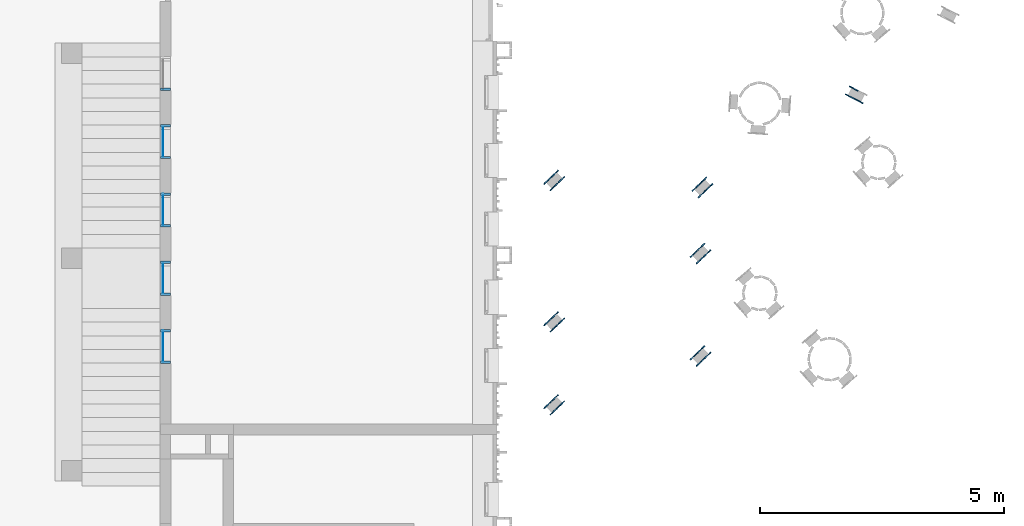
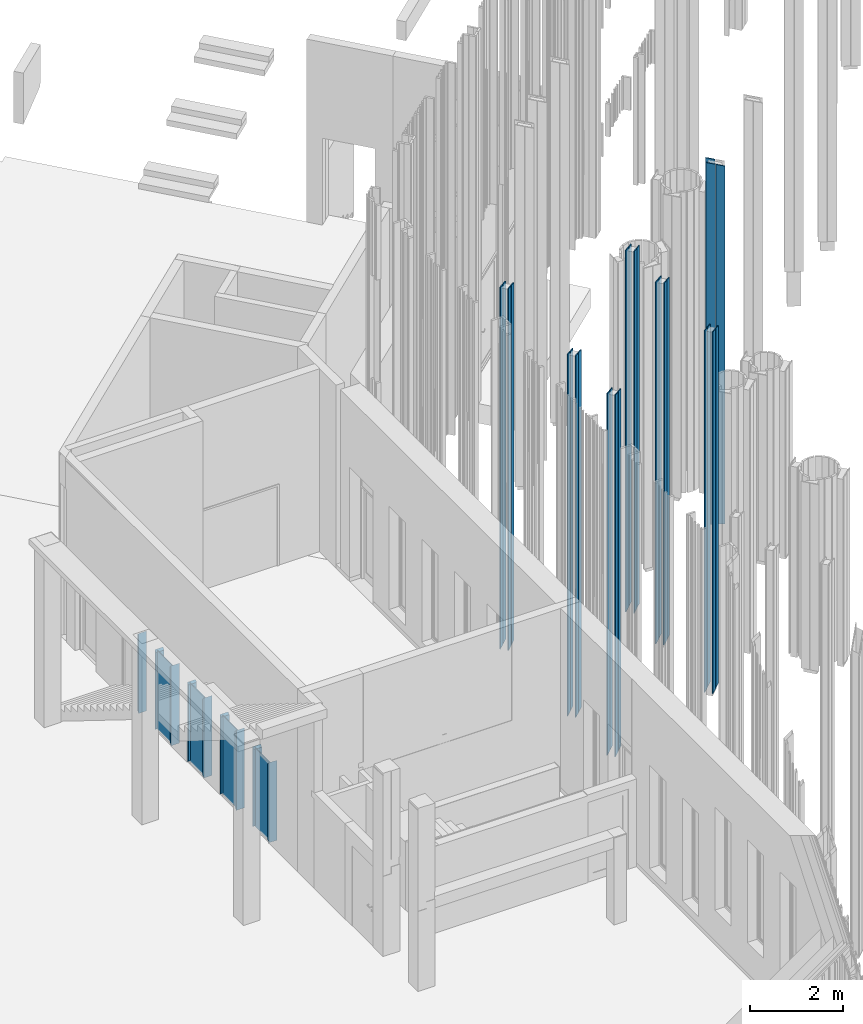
# One storey, part 39 of 390: 40 discrete accessories, 5 elements without a shape of their own.
"""IFC2X3 building model written with IfcOpenShell, lengths in millimetres."""

from ifc_helpers import new_model, entity, si_unit, converted_unit, derived_unit, money_unit, direction, frame, origin_with_axes, place, context, subcontext, project, spatial, polyline, outline, extrude, clip, halfspace, faceted_brep, source, transform, mapped, material, material_list, type_object, element, aggregate, save


model = new_model("IFC2X3")

# Units and contexts
model_context = context("Model", 3, precision=1e-05, world=origin_with_axes(), true_north=direction((0.0, 1.0)))
body_context = subcontext(model_context, "Body", "Model", "MODEL_VIEW")
ifc_project = project(units=[si_unit("LENGTHUNIT", "METRE", prefix="MILLI"), si_unit("AREAUNIT", "SQUARE_METRE"), si_unit("VOLUMEUNIT", "CUBIC_METRE"), converted_unit("PLANEANGLEUNIT", "DEGREE", entity("IfcPlaneAngleMeasure", 0.0174532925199), si_unit("PLANEANGLEUNIT", "RADIAN"), dimensions=[0, 0, 0, 0, 0, 0, 0]), si_unit("SOLIDANGLEUNIT", "STERADIAN"), money_unit("EUR"), converted_unit("TIMEUNIT", "Year", entity("IfcTimeMeasure", 31556926.0), si_unit("TIMEUNIT", "SECOND"), dimensions=[0, 0, 1, 0, 0, 0, 0]), si_unit("MASSUNIT", "GRAM", prefix="KILO"), si_unit("THERMODYNAMICTEMPERATUREUNIT", "DEGREE_CELSIUS"), si_unit("LUMINOUSINTENSITYUNIT", "LUMEN"), si_unit("ENERGYUNIT", "JOULE", prefix="MEGA"), derived_unit("THERMALCONDUCTANCEUNIT", [(si_unit("POWERUNIT", "WATT"), 1), (si_unit("LENGTHUNIT", "METRE"), -1), (si_unit("THERMODYNAMICTEMPERATUREUNIT", "KELVIN"), -1)]), derived_unit("SPECIFICHEATCAPACITYUNIT", [(si_unit("ENERGYUNIT", "JOULE"), 1), (si_unit("MASSUNIT", "GRAM", prefix="KILO"), -1), (si_unit("THERMODYNAMICTEMPERATUREUNIT", "KELVIN"), -1)]), derived_unit("MASSDENSITYUNIT", [(si_unit("MASSUNIT", "GRAM", prefix="KILO"), 1), (si_unit("VOLUMEUNIT", "CUBIC_METRE"), -1)])], contexts=[model_context])

# Site, building, storey
site_placement = place(None, origin_with_axes())
site = spatial("IfcSite", under=ifc_project, at=site_placement, Name="Site", CompositionType="ELEMENT")
building_placement = place(site_placement, origin_with_axes())
building = spatial("IfcBuilding", under=site, at=building_placement, Name="Building", CompositionType="ELEMENT")
storey_placement = place(building_placement, origin_with_axes())
storey = spatial("IfcBuildingStorey", under=building, at=storey_placement, Name="1 korrus", CompositionType="ELEMENT", Elevation=0.0)

# Discrete accessories
ifc_material_1 = material(Name="GENEERILINE - VÄLINE VOODER")
discrete_accessory_type_1 = type_object("IfcDiscreteAccessoryType", Name="GENEERILINE - VÄLINE VOODER")
shared_shape_1 = source(origin_with_axes(), body_context, "Body", "Brep", [
    faceted_brep([(162190.360855, 119453.798876, 100.0), (162190.360855, 119453.798876, 9600.0), (162168.524839, 119456.480002, 9600.0), (162168.524839, 119456.480002, 100.0), (162214.734723, 119652.308107, 100.0), (162214.734723, 119652.308107, 9546.41016151), (162192.898708, 119654.989232, 9546.41016151), (162192.898708, 119654.989232, 100.0)], [[[0, 1, 2, 3]], [[1, 0, 4, 5]], [[2, 1, 5, 6]], [[3, 2, 6, 7]], [[0, 3, 7, 4]], [[7, 6, 5, 4]]]),
])
for number, where, z_axis, x_axis in (
    (1, (-60428.8672127, 71999.3768693, 0.0), (0.0, 0.0, 1.0), (0.774944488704, -0.632029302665, 0.0)),
    (2, (-57390.1597736, 71854.8490542, 0.0), (0.0, 0.0, 1.0), (0.774944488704, -0.632029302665, 0.0)),
    (3, (-57428.8672127, 70499.3768693, 0.0), (0.0, 0.0, 1.0), (0.774944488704, -0.632029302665, 0.0)),
    (4, (-60428.8672127, 69099.3768693, 0.0), (0.0, 0.0, 1.0), (0.774944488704, -0.632029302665, 0.0)),
    (5, (-57428.8672127, 68399.3768693, 0.0), (0.0, 0.0, 1.0), (0.774944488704, -0.632029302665, 0.0)),
    (6, (-60428.8672127, 67399.3768693, 0.0), (0.0, 0.0, 1.0), (0.774944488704, -0.632029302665, 0.0)),
    (7, (90231.2612486, 257328.606473, 0.0), (0.0, 0.0, 1.0), (-0.342020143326, -0.939692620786, 0.0)),
):
    element("IfcDiscreteAccessory", number, at=place(storey_placement, frame(where, z_axis=z_axis, x_axis=x_axis)), inside=storey, type_object=discrete_accessory_type_1, material=ifc_material_1, Name="Päikesevarjestuspost", context=body_context, shape_type="MappedRepresentation", body=[
        mapped(shared_shape_1, transform((0.0, 0.0, 0.0))),
    ])
shared_shape_2 = source(origin_with_axes(), body_context, "Body", "Brep", [
    faceted_brep([(162194.117401, 119664.914694, 100.0), (162215.953417, 119662.233568, 100.0), (162215.953417, 119662.233568, 9543.73066959), (162194.117401, 119664.914694, 9543.73066959), (162218.49127, 119863.423924, 100.0), (162240.327285, 119860.742798, 100.0), (162240.327285, 119860.742798, 9490.1408311), (162218.49127, 119863.423924, 9490.1408311)], [[[0, 1, 2, 3]], [[1, 0, 4, 5]], [[2, 1, 5, 6]], [[3, 2, 6, 7]], [[0, 3, 7, 4]], [[4, 7, 6, 5]]]),
])
for number, where, z_axis, x_axis in (
    (8, (-60428.8672127, 71999.3768693, 0.0), (0.0, 0.0, 1.0), (0.774944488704, -0.632029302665, 0.0)),
    (9, (-57390.1597736, 71854.8490542, 0.0), (0.0, 0.0, 1.0), (0.774944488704, -0.632029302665, 0.0)),
    (10, (-57428.8672127, 70499.3768693, 0.0), (0.0, 0.0, 1.0), (0.774944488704, -0.632029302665, 0.0)),
    (11, (-60428.8672127, 69099.3768693, 0.0), (0.0, 0.0, 1.0), (0.774944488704, -0.632029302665, 0.0)),
    (12, (-57428.8672127, 68399.3768693, 0.0), (0.0, 0.0, 1.0), (0.774944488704, -0.632029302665, 0.0)),
    (13, (-60428.8672127, 67399.3768693, 0.0), (0.0, 0.0, 1.0), (0.774944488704, -0.632029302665, 0.0)),
):
    element("IfcDiscreteAccessory", number, at=place(storey_placement, frame(where, z_axis=z_axis, x_axis=x_axis)), inside=storey, type_object=discrete_accessory_type_1, material=ifc_material_1, Name="Päikesevarjestuspost", context=body_context, shape_type="MappedRepresentation", body=[
        mapped(shared_shape_2, transform((0.0, 0.0, 0.0))),
    ])
shared_shape_3 = source(origin_with_axes(), body_context, "Body", "Brep", [
    faceted_brep([(-162194.117401, 119664.914694, 100.0), (-162194.117401, 119664.914694, 9543.73066959), (-162215.953417, 119662.233568, 9543.73066959), (-162215.953417, 119662.233568, 100.0), (-162218.49127, 119863.423924, 100.0), (-162218.49127, 119863.423924, 9490.1408311), (-162240.327285, 119860.742798, 9490.1408311), (-162240.327285, 119860.742798, 100.0)], [[[0, 1, 2, 3]], [[0, 4, 5, 1]], [[1, 5, 6, 2]], [[2, 6, 7, 3]], [[3, 7, 4, 0]], [[4, 7, 6, 5]]]),
])
for number, where, z_axis, x_axis in (
    (14, (142374.152663, -139481.656804, 0.0), (0.0, 0.0, 1.0), (0.599023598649, -0.800731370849, 0.0)),
    (15, (145412.860102, -139626.184619, 0.0), (0.0, 0.0, 1.0), (0.599023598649, -0.800731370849, 0.0)),
    (16, (145374.152663, -140981.656804, 0.0), (0.0, 0.0, 1.0), (0.599023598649, -0.800731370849, 0.0)),
    (17, (145374.152663, -143081.656804, 0.0), (0.0, 0.0, 1.0), (0.599023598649, -0.800731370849, 0.0)),
    (18, (142374.152663, -142381.656804, 0.0), (0.0, 0.0, 1.0), (0.599023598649, -0.800731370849, 0.0)),
    (19, (142374.152663, -144081.656804, 0.0), (0.0, 0.0, 1.0), (0.599023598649, -0.800731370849, 0.0)),
    (20, (-42791.2806109, -3742.83170368, 0.0), (0.0, 0.0, 1.0), (-0.559192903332, -0.829037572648, 0.0)),
):
    element("IfcDiscreteAccessory", number, at=place(storey_placement, frame(where, z_axis=z_axis, x_axis=x_axis)), inside=storey, type_object=discrete_accessory_type_1, material=ifc_material_1, Name="Päikesevarjestuspost", context=body_context, shape_type="MappedRepresentation", body=[
        mapped(shared_shape_3, transform((0.0, 0.0, 0.0))),
    ])
shared_shape_4 = source(origin_with_axes(), body_context, "Body", "Brep", [
    faceted_brep([(-162190.360855, 119453.798876, 100.0), (-162168.524839, 119456.480002, 100.0), (-162168.524839, 119456.480002, 9600.0), (-162190.360855, 119453.798876, 9600.0), (-162214.734723, 119652.308107, 100.0), (-162192.898708, 119654.989232, 100.0), (-162192.898708, 119654.989232, 9546.41016151), (-162214.734723, 119652.308107, 9546.41016151)], [[[0, 1, 2, 3]], [[0, 4, 5, 1]], [[1, 5, 6, 2]], [[2, 6, 7, 3]], [[3, 7, 4, 0]], [[5, 4, 7, 6]]]),
])
for number, where, z_axis, x_axis in (
    (21, (142374.152663, -139481.656804, 0.0), (0.0, 0.0, 1.0), (0.599023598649, -0.800731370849, 0.0)),
    (22, (145412.860102, -139626.184619, 0.0), (0.0, 0.0, 1.0), (0.599023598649, -0.800731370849, 0.0)),
    (23, (145374.152663, -140981.656804, 0.0), (0.0, 0.0, 1.0), (0.599023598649, -0.800731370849, 0.0)),
    (24, (145374.152663, -143081.656804, 0.0), (0.0, 0.0, 1.0), (0.599023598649, -0.800731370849, 0.0)),
    (25, (142374.152663, -142381.656804, 0.0), (0.0, 0.0, 1.0), (0.599023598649, -0.800731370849, 0.0)),
    (26, (142374.152663, -144081.656804, 0.0), (0.0, 0.0, 1.0), (0.599023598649, -0.800731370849, 0.0)),
    (27, (-42791.2806109, -3742.83170368, 0.0), (0.0, 0.0, 1.0), (-0.559192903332, -0.829037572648, 0.0)),
):
    element("IfcDiscreteAccessory", number, at=place(storey_placement, frame(where, z_axis=z_axis, x_axis=x_axis)), inside=storey, type_object=discrete_accessory_type_1, material=ifc_material_1, Name="Päikesevarjestuspost", context=body_context, shape_type="MappedRepresentation", body=[
        mapped(shared_shape_4, transform((0.0, 0.0, 0.0))),
    ])

# Curtain wall, discrete accessories
curtain_wall_type = type_object("IfcCurtainWallType", Name="KS-17", PredefinedType="NOTDEFINED")
curtain_wall_1_placement = place(storey_placement, frame((132939.999926, 58740.0585192, 0.0), z_axis=(0.0, 0.0, 1.0), x_axis=(1.0, 0.0, 0.0)))
curtain_wall_1 = element("IfcCurtainWall", 28, at=curtain_wall_1_placement, inside=storey, type_object=curtain_wall_type, Name="Klaas-sein")
ifc_material_2 = material(Name="Klaas")
discrete_accessory_type_2 = type_object("IfcDiscreteAccessoryType", Name="Distinct Panel 660 x 2060 x 20")
discrete_accessory_1_placement = place(curtain_wall_1_placement, frame((0.0, 0.0, 1050.0), z_axis=(0.0, 0.0, 1.0), x_axis=(0.0, 1.0, 0.0)))
discrete_accessory_1 = element("IfcDiscreteAccessory", 29, at=discrete_accessory_1_placement, type_object=discrete_accessory_type_2, material=ifc_material_2, Name="KS-17 klaaspakett", context=body_context, shape_type="SweptSolid", body=[
    extrude(outline(polyline([(-329.999980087, -1030.00001341), (330.000015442, -1030.00001341), (330.000015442, 1030.00001341), (-330.00001138, 1030.00001341), (-329.999980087, -1030.00001341)])), frame((0.0, -10.0, 0.0), z_axis=(0.0, 1.0, 0.0), x_axis=(1.0, 0.0, 0.0)), (0.0, 0.0, 1.0), 20.0),
])
ifc_material_3 = material(Name="Aluminium MUST")
ifc_material_list = material_list([ifc_material_3, ifc_material_3, ifc_material_3])
discrete_accessory_type_3 = type_object("IfcDiscreteAccessoryType", Name="50 x 200")
discrete_accessory_2_placement = place(curtain_wall_1_placement, frame((1.81898940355e-09, -350.000015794, 0.0), z_axis=(0.0, 1.31075138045e-08, 1.0), x_axis=(0.0, 1.0, -1.31075138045e-08)))
discrete_accessory_2 = element("IfcDiscreteAccessory", 30, at=discrete_accessory_2_placement, type_object=discrete_accessory_type_3, material=ifc_material_list, Name="KS-17 profiil", context=body_context, shape_type="Clipping", body=[
    clip(clip(extrude(outline(polyline([(9.99999999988, 25.0000000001), (-10.0000000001, 24.9999999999), (-9.99999999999, 0.0), (9.99999999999, 0.0), (9.99999999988, 25.0000000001)])), frame((0.0, 0.0, 0.0), z_axis=(0.0, 0.0, 1.0), x_axis=(0.0, -1.0, 0.0)), (0.0, 0.0, 1.0), 2100.0), halfspace(frame((1050.0, 0.0, 1050.00001376), z_axis=(-0.707106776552, 0.0, -0.707106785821), x_axis=(0.0, 1.0, 0.0)), True)), halfspace(frame((0.0, 0.0, 0.0), z_axis=(-0.707106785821, 0.0, 0.707106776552), x_axis=(0.0, -1.0, 0.0)), True)),
    clip(clip(extrude(outline(polyline([(150.0, 50.0000000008), (9.99999999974, 50.0000000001), (9.99999999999, 0.0), (150.0, 7.81597009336e-10), (150.0, 50.0000000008)])), frame((0.0, 0.0, 0.0), z_axis=(0.0, 0.0, 1.0), x_axis=(0.0, -1.0, 0.0)), (0.0, 0.0, 1.0), 2100.0), halfspace(frame((1050.0, 0.0, 1050.00001376), z_axis=(-0.707106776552, 0.0, -0.707106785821), x_axis=(0.0, 1.0, 0.0)), True)), halfspace(frame((0.0, 0.0, 0.0), z_axis=(-0.707106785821, 0.0, 0.707106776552), x_axis=(0.0, -1.0, 0.0)), True)),
    clip(clip(extrude(outline(polyline([(-50.0, -2.62900812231e-10), (-9.99999999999, 0.0), (-10.0000000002, 49.9999999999), (-50.0000000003, 49.9999999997), (-50.0, -2.62900812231e-10)])), frame((0.0, 0.0, 0.0), z_axis=(0.0, 0.0, 1.0), x_axis=(0.0, -1.0, 0.0)), (0.0, 0.0, 1.0), 2100.0), halfspace(frame((1050.0, 0.0, 1050.00001376), z_axis=(-0.707106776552, 0.0, -0.707106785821), x_axis=(0.0, 1.0, 0.0)), True)), halfspace(frame((0.0, 0.0, 0.0), z_axis=(-0.707106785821, 0.0, 0.707106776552), x_axis=(0.0, -1.0, 0.0)), True)),
])
discrete_accessory_3_placement = place(curtain_wall_1_placement, frame((-1.81898940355e-09, 350.000002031, 0.0), z_axis=(0.0, 0.0, 1.0), x_axis=(0.0, 1.0, 0.0)))
discrete_accessory_3 = element("IfcDiscreteAccessory", 31, at=discrete_accessory_3_placement, type_object=discrete_accessory_type_3, material=ifc_material_list, Name="KS-17 profiil", context=body_context, shape_type="Clipping", body=[
    clip(clip(extrude(outline(polyline([(10.0000000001, -24.9999999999), (9.99999999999, 0.0), (-9.99999999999, 0.0), (-9.99999999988, -25.0000000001), (10.0000000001, -24.9999999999)])), frame((0.0, 0.0, 0.0), z_axis=(0.0, 0.0, 1.0), x_axis=(0.0, -1.0, 0.0)), (0.0, 0.0, 1.0), 2100.0), halfspace(frame((0.0, 0.0, 0.0), z_axis=(0.707106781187, 0.0, 0.707106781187), x_axis=(0.0, -1.0, 0.0)), True)), halfspace(frame((-1050.0, 0.0, 1050.0), z_axis=(0.707106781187, 0.0, -0.707106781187), x_axis=(0.0, 1.0, 0.0)), True)),
    clip(clip(extrude(outline(polyline([(150.0, -49.9999999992), (150.0, 7.81597009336e-10), (9.99999999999, 0.0), (10.0000000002, -49.9999999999), (150.0, -49.9999999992)])), frame((0.0, 0.0, 0.0), z_axis=(0.0, 0.0, 1.0), x_axis=(0.0, -1.0, 0.0)), (0.0, 0.0, 1.0), 2100.0), halfspace(frame((0.0, 0.0, 0.0), z_axis=(0.707106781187, 0.0, 0.707106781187), x_axis=(0.0, -1.0, 0.0)), True)), halfspace(frame((-1050.0, 0.0, 1050.0), z_axis=(0.707106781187, 0.0, -0.707106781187), x_axis=(0.0, 1.0, 0.0)), True)),
    clip(clip(extrude(outline(polyline([(-50.0, -2.62900812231e-10), (-49.9999999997, -50.0000000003), (-9.99999999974, -50.0000000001), (-9.99999999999, 0.0), (-50.0, -2.62900812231e-10)])), frame((0.0, 0.0, 0.0), z_axis=(0.0, 0.0, 1.0), x_axis=(0.0, -1.0, 0.0)), (0.0, 0.0, 1.0), 2100.0), halfspace(frame((0.0, 0.0, 0.0), z_axis=(0.707106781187, 0.0, 0.707106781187), x_axis=(0.0, -1.0, 0.0)), True)), halfspace(frame((-1050.0, 0.0, 1050.0), z_axis=(0.707106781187, 0.0, -0.707106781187), x_axis=(0.0, 1.0, 0.0)), True)),
])
aggregate(curtain_wall_1, [discrete_accessory_1, discrete_accessory_2, discrete_accessory_3])

curtain_wall_2_placement = place(storey_placement, frame((132939.999926, 63023.3918775, 0.0), z_axis=(0.0, 0.0, 1.0), x_axis=(1.0, 0.0, 0.0)))
curtain_wall_2 = element("IfcCurtainWall", 32, at=curtain_wall_2_placement, inside=storey, type_object=curtain_wall_type, Name="Klaas-sein")
discrete_accessory_4_placement = place(curtain_wall_2_placement, frame((-1.39266376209e-09, 266.666688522, 2100.0), z_axis=(0.0, -9.93411828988e-09, -1.0), x_axis=(0.0, -1.0, 9.93411828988e-09)))
discrete_accessory_4 = element("IfcDiscreteAccessory", 33, at=discrete_accessory_4_placement, type_object=discrete_accessory_type_3, material=ifc_material_list, Name="KS-17 profiil", context=body_context, shape_type="Clipping", body=[
    clip(clip(extrude(outline(polyline([(10.0000000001, 24.9999999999), (-9.99999999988, 25.0000000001), (-9.99999999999, 0.0), (9.99999999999, 0.0), (10.0000000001, 24.9999999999)])), frame((0.0, 0.0, 0.0), z_axis=(0.0, 0.0, 1.0), x_axis=(0.0, -1.0, 0.0)), (0.0, 0.0, 1.0), 2100.0), halfspace(frame((1050.0, 0.0, 1050.00001043), z_axis=(-0.707106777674, 0.0, -0.707106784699), x_axis=(0.0, 1.0, 0.0)), True)), halfspace(frame((0.0, 0.0, 0.0), z_axis=(-0.707106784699, 0.0, 0.707106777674), x_axis=(0.0, -1.0, 0.0)), True)),
    clip(clip(extrude(outline(polyline([(150.0, 49.9999999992), (10.0000000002, 49.9999999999), (9.99999999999, 0.0), (150.0, -7.81597009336e-10), (150.0, 49.9999999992)])), frame((0.0, 0.0, 0.0), z_axis=(0.0, 0.0, 1.0), x_axis=(0.0, -1.0, 0.0)), (0.0, 0.0, 1.0), 2100.0), halfspace(frame((1050.0, 0.0, 1050.00001043), z_axis=(-0.707106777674, 0.0, -0.707106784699), x_axis=(0.0, 1.0, 0.0)), True)), halfspace(frame((0.0, 0.0, 0.0), z_axis=(-0.707106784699, 0.0, 0.707106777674), x_axis=(0.0, -1.0, 0.0)), True)),
    clip(clip(extrude(outline(polyline([(-50.0, 2.62900812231e-10), (-9.99999999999, 0.0), (-9.99999999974, 50.0000000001), (-49.9999999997, 50.0000000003), (-50.0, 2.62900812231e-10)])), frame((0.0, 0.0, 0.0), z_axis=(0.0, 0.0, 1.0), x_axis=(0.0, -1.0, 0.0)), (0.0, 0.0, 1.0), 2100.0), halfspace(frame((1050.0, 0.0, 1050.00001043), z_axis=(-0.707106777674, 0.0, -0.707106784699), x_axis=(0.0, 1.0, 0.0)), True)), halfspace(frame((0.0, 0.0, 0.0), z_axis=(-0.707106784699, 0.0, 0.707106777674), x_axis=(0.0, -1.0, 0.0)), True)),
])
discrete_accessory_5_placement = place(curtain_wall_2_placement, frame((2.245315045e-09, -433.33333234, 0.0), z_axis=(0.0, 9.93411828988e-09, 1.0), x_axis=(0.0, 1.0, -9.93411828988e-09)))
discrete_accessory_5 = element("IfcDiscreteAccessory", 34, at=discrete_accessory_5_placement, type_object=discrete_accessory_type_3, material=ifc_material_list, Name="KS-17 profiil", context=body_context, shape_type="Clipping", body=[
    clip(clip(extrude(outline(polyline([(9.99999999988, 25.0000000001), (-10.0000000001, 24.9999999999), (-9.99999999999, 0.0), (9.99999999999, 0.0), (9.99999999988, 25.0000000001)])), frame((0.0, 0.0, 0.0), z_axis=(0.0, 0.0, 1.0), x_axis=(0.0, -1.0, 0.0)), (0.0, 0.0, 1.0), 2100.0), halfspace(frame((1050.0, 0.0, 1050.00001043), z_axis=(-0.707106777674, 0.0, -0.707106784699), x_axis=(0.0, 1.0, 0.0)), True)), halfspace(frame((0.0, 0.0, 0.0), z_axis=(-0.707106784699, 0.0, 0.707106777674), x_axis=(0.0, -1.0, 0.0)), True)),
    clip(clip(extrude(outline(polyline([(150.0, 50.0000000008), (9.99999999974, 50.0000000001), (9.99999999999, 0.0), (150.0, 7.81597009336e-10), (150.0, 50.0000000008)])), frame((0.0, 0.0, 0.0), z_axis=(0.0, 0.0, 1.0), x_axis=(0.0, -1.0, 0.0)), (0.0, 0.0, 1.0), 2100.0), halfspace(frame((1050.0, 0.0, 1050.00001043), z_axis=(-0.707106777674, 0.0, -0.707106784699), x_axis=(0.0, 1.0, 0.0)), True)), halfspace(frame((0.0, 0.0, 0.0), z_axis=(-0.707106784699, 0.0, 0.707106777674), x_axis=(0.0, -1.0, 0.0)), True)),
    clip(clip(extrude(outline(polyline([(-50.0, -2.62900812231e-10), (-9.99999999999, 0.0), (-10.0000000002, 49.9999999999), (-50.0000000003, 49.9999999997), (-50.0, -2.62900812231e-10)])), frame((0.0, 0.0, 0.0), z_axis=(0.0, 0.0, 1.0), x_axis=(0.0, -1.0, 0.0)), (0.0, 0.0, 1.0), 2100.0), halfspace(frame((1050.0, 0.0, 1050.00001043), z_axis=(-0.707106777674, 0.0, -0.707106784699), x_axis=(0.0, 1.0, 0.0)), True)), halfspace(frame((0.0, 0.0, 0.0), z_axis=(-0.707106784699, 0.0, 0.707106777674), x_axis=(0.0, -1.0, 0.0)), True)),
])

curtain_wall_3_placement = place(storey_placement, frame((132939.999926, 61623.3918775, 0.0), z_axis=(0.0, 0.0, 1.0), x_axis=(1.0, 0.0, 0.0)))
curtain_wall_3 = element("IfcCurtainWall", 35, at=curtain_wall_3_placement, inside=storey, type_object=curtain_wall_type, Name="Klaas-sein")
discrete_accessory_6_placement = place(curtain_wall_3_placement, frame((-1.39266376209e-09, 266.666688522, 2100.0), z_axis=(0.0, -9.93411828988e-09, -1.0), x_axis=(0.0, -1.0, 9.93411828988e-09)))
discrete_accessory_6 = element("IfcDiscreteAccessory", 36, at=discrete_accessory_6_placement, type_object=discrete_accessory_type_3, material=ifc_material_list, Name="KS-17 profiil", context=body_context, shape_type="Clipping", body=[
    clip(clip(extrude(outline(polyline([(10.0000000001, 24.9999999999), (-9.99999999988, 25.0000000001), (-9.99999999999, 0.0), (9.99999999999, 0.0), (10.0000000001, 24.9999999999)])), frame((0.0, 0.0, 0.0), z_axis=(0.0, 0.0, 1.0), x_axis=(0.0, -1.0, 0.0)), (0.0, 0.0, 1.0), 2100.0), halfspace(frame((1050.0, 0.0, 1050.00001043), z_axis=(-0.707106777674, 0.0, -0.707106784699), x_axis=(0.0, 1.0, 0.0)), True)), halfspace(frame((0.0, 0.0, 0.0), z_axis=(-0.707106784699, 0.0, 0.707106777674), x_axis=(0.0, -1.0, 0.0)), True)),
    clip(clip(extrude(outline(polyline([(150.0, 49.9999999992), (10.0000000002, 49.9999999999), (9.99999999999, 0.0), (150.0, -7.81597009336e-10), (150.0, 49.9999999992)])), frame((0.0, 0.0, 0.0), z_axis=(0.0, 0.0, 1.0), x_axis=(0.0, -1.0, 0.0)), (0.0, 0.0, 1.0), 2100.0), halfspace(frame((1050.0, 0.0, 1050.00001043), z_axis=(-0.707106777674, 0.0, -0.707106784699), x_axis=(0.0, 1.0, 0.0)), True)), halfspace(frame((0.0, 0.0, 0.0), z_axis=(-0.707106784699, 0.0, 0.707106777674), x_axis=(0.0, -1.0, 0.0)), True)),
    clip(clip(extrude(outline(polyline([(-50.0, 2.62900812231e-10), (-9.99999999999, 0.0), (-9.99999999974, 50.0000000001), (-49.9999999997, 50.0000000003), (-50.0, 2.62900812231e-10)])), frame((0.0, 0.0, 0.0), z_axis=(0.0, 0.0, 1.0), x_axis=(0.0, -1.0, 0.0)), (0.0, 0.0, 1.0), 2100.0), halfspace(frame((1050.0, 0.0, 1050.00001043), z_axis=(-0.707106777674, 0.0, -0.707106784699), x_axis=(0.0, 1.0, 0.0)), True)), halfspace(frame((0.0, 0.0, 0.0), z_axis=(-0.707106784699, 0.0, 0.707106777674), x_axis=(0.0, -1.0, 0.0)), True)),
])
discrete_accessory_7_placement = place(curtain_wall_3_placement, frame((2.245315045e-09, -433.33333234, 0.0), z_axis=(0.0, 9.93411828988e-09, 1.0), x_axis=(0.0, 1.0, -9.93411828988e-09)))
discrete_accessory_7 = element("IfcDiscreteAccessory", 37, at=discrete_accessory_7_placement, type_object=discrete_accessory_type_3, material=ifc_material_list, Name="KS-17 profiil", context=body_context, shape_type="Clipping", body=[
    clip(clip(extrude(outline(polyline([(9.99999999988, 25.0000000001), (-10.0000000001, 24.9999999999), (-9.99999999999, 0.0), (9.99999999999, 0.0), (9.99999999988, 25.0000000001)])), frame((0.0, 0.0, 0.0), z_axis=(0.0, 0.0, 1.0), x_axis=(0.0, -1.0, 0.0)), (0.0, 0.0, 1.0), 2100.0), halfspace(frame((1050.0, 0.0, 1050.00001043), z_axis=(-0.707106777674, 0.0, -0.707106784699), x_axis=(0.0, 1.0, 0.0)), True)), halfspace(frame((0.0, 0.0, 0.0), z_axis=(-0.707106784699, 0.0, 0.707106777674), x_axis=(0.0, -1.0, 0.0)), True)),
    clip(clip(extrude(outline(polyline([(150.0, 50.0000000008), (9.99999999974, 50.0000000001), (9.99999999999, 0.0), (150.0, 7.81597009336e-10), (150.0, 50.0000000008)])), frame((0.0, 0.0, 0.0), z_axis=(0.0, 0.0, 1.0), x_axis=(0.0, -1.0, 0.0)), (0.0, 0.0, 1.0), 2100.0), halfspace(frame((1050.0, 0.0, 1050.00001043), z_axis=(-0.707106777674, 0.0, -0.707106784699), x_axis=(0.0, 1.0, 0.0)), True)), halfspace(frame((0.0, 0.0, 0.0), z_axis=(-0.707106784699, 0.0, 0.707106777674), x_axis=(0.0, -1.0, 0.0)), True)),
    clip(clip(extrude(outline(polyline([(-50.0, -2.62900812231e-10), (-9.99999999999, 0.0), (-10.0000000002, 49.9999999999), (-50.0000000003, 49.9999999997), (-50.0, -2.62900812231e-10)])), frame((0.0, 0.0, 0.0), z_axis=(0.0, 0.0, 1.0), x_axis=(0.0, -1.0, 0.0)), (0.0, 0.0, 1.0), 2100.0), halfspace(frame((1050.0, 0.0, 1050.00001043), z_axis=(-0.707106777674, 0.0, -0.707106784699), x_axis=(0.0, 1.0, 0.0)), True)), halfspace(frame((0.0, 0.0, 0.0), z_axis=(-0.707106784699, 0.0, 0.707106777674), x_axis=(0.0, -1.0, 0.0)), True)),
])

curtain_wall_4_placement = place(storey_placement, frame((132939.999926, 60223.3918775, 0.0), z_axis=(0.0, 0.0, 1.0), x_axis=(1.0, 0.0, 0.0)))
curtain_wall_4 = element("IfcCurtainWall", 38, at=curtain_wall_4_placement, inside=storey, type_object=curtain_wall_type, Name="Klaas-sein")
discrete_accessory_8_placement = place(curtain_wall_4_placement, frame((-1.39266376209e-09, 266.666688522, 2100.0), z_axis=(0.0, -9.93411828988e-09, -1.0), x_axis=(0.0, -1.0, 9.93411828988e-09)))
discrete_accessory_8 = element("IfcDiscreteAccessory", 39, at=discrete_accessory_8_placement, type_object=discrete_accessory_type_3, material=ifc_material_list, Name="KS-17 profiil", context=body_context, shape_type="Clipping", body=[
    clip(clip(extrude(outline(polyline([(10.0000000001, 24.9999999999), (-9.99999999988, 25.0000000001), (-9.99999999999, 0.0), (9.99999999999, 0.0), (10.0000000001, 24.9999999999)])), frame((0.0, 0.0, 0.0), z_axis=(0.0, 0.0, 1.0), x_axis=(0.0, -1.0, 0.0)), (0.0, 0.0, 1.0), 2100.0), halfspace(frame((1050.0, 0.0, 1050.00001043), z_axis=(-0.707106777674, 0.0, -0.707106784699), x_axis=(0.0, 1.0, 0.0)), True)), halfspace(frame((0.0, 0.0, 0.0), z_axis=(-0.707106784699, 0.0, 0.707106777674), x_axis=(0.0, -1.0, 0.0)), True)),
    clip(clip(extrude(outline(polyline([(150.0, 49.9999999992), (10.0000000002, 49.9999999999), (9.99999999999, 0.0), (150.0, -7.81597009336e-10), (150.0, 49.9999999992)])), frame((0.0, 0.0, 0.0), z_axis=(0.0, 0.0, 1.0), x_axis=(0.0, -1.0, 0.0)), (0.0, 0.0, 1.0), 2100.0), halfspace(frame((1050.0, 0.0, 1050.00001043), z_axis=(-0.707106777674, 0.0, -0.707106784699), x_axis=(0.0, 1.0, 0.0)), True)), halfspace(frame((0.0, 0.0, 0.0), z_axis=(-0.707106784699, 0.0, 0.707106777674), x_axis=(0.0, -1.0, 0.0)), True)),
    clip(clip(extrude(outline(polyline([(-50.0, 2.62900812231e-10), (-9.99999999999, 0.0), (-9.99999999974, 50.0000000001), (-49.9999999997, 50.0000000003), (-50.0, 2.62900812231e-10)])), frame((0.0, 0.0, 0.0), z_axis=(0.0, 0.0, 1.0), x_axis=(0.0, -1.0, 0.0)), (0.0, 0.0, 1.0), 2100.0), halfspace(frame((1050.0, 0.0, 1050.00001043), z_axis=(-0.707106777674, 0.0, -0.707106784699), x_axis=(0.0, 1.0, 0.0)), True)), halfspace(frame((0.0, 0.0, 0.0), z_axis=(-0.707106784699, 0.0, 0.707106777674), x_axis=(0.0, -1.0, 0.0)), True)),
])
discrete_accessory_9_placement = place(curtain_wall_4_placement, frame((2.245315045e-09, -433.33333234, 0.0), z_axis=(0.0, 9.93411828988e-09, 1.0), x_axis=(0.0, 1.0, -9.93411828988e-09)))
discrete_accessory_9 = element("IfcDiscreteAccessory", 40, at=discrete_accessory_9_placement, type_object=discrete_accessory_type_3, material=ifc_material_list, Name="KS-17 profiil", context=body_context, shape_type="Clipping", body=[
    clip(clip(extrude(outline(polyline([(9.99999999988, 25.0000000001), (-10.0000000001, 24.9999999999), (-9.99999999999, 0.0), (9.99999999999, 0.0), (9.99999999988, 25.0000000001)])), frame((0.0, 0.0, 0.0), z_axis=(0.0, 0.0, 1.0), x_axis=(0.0, -1.0, 0.0)), (0.0, 0.0, 1.0), 2100.0), halfspace(frame((1050.0, 0.0, 1050.00001043), z_axis=(-0.707106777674, 0.0, -0.707106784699), x_axis=(0.0, 1.0, 0.0)), True)), halfspace(frame((0.0, 0.0, 0.0), z_axis=(-0.707106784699, 0.0, 0.707106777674), x_axis=(0.0, -1.0, 0.0)), True)),
    clip(clip(extrude(outline(polyline([(150.0, 50.0000000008), (9.99999999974, 50.0000000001), (9.99999999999, 0.0), (150.0, 7.81597009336e-10), (150.0, 50.0000000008)])), frame((0.0, 0.0, 0.0), z_axis=(0.0, 0.0, 1.0), x_axis=(0.0, -1.0, 0.0)), (0.0, 0.0, 1.0), 2100.0), halfspace(frame((1050.0, 0.0, 1050.00001043), z_axis=(-0.707106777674, 0.0, -0.707106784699), x_axis=(0.0, 1.0, 0.0)), True)), halfspace(frame((0.0, 0.0, 0.0), z_axis=(-0.707106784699, 0.0, 0.707106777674), x_axis=(0.0, -1.0, 0.0)), True)),
    clip(clip(extrude(outline(polyline([(-50.0, -2.62900812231e-10), (-9.99999999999, 0.0), (-10.0000000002, 49.9999999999), (-50.0000000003, 49.9999999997), (-50.0, -2.62900812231e-10)])), frame((0.0, 0.0, 0.0), z_axis=(0.0, 0.0, 1.0), x_axis=(0.0, -1.0, 0.0)), (0.0, 0.0, 1.0), 2100.0), halfspace(frame((1050.0, 0.0, 1050.00001043), z_axis=(-0.707106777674, 0.0, -0.707106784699), x_axis=(0.0, 1.0, 0.0)), True)), halfspace(frame((0.0, 0.0, 0.0), z_axis=(-0.707106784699, 0.0, 0.707106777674), x_axis=(0.0, -1.0, 0.0)), True)),
])

# Curtain wall, discrete accessory
curtain_wall_5_placement = place(storey_placement, frame((132939.999926, 64423.3918775, 0.0), z_axis=(0.0, 0.0, 1.0), x_axis=(1.0, 0.0, 0.0)))
curtain_wall_5 = element("IfcCurtainWall", 41, at=curtain_wall_5_placement, inside=storey, type_object=curtain_wall_type, Name="Klaas-sein")
discrete_accessory_10_placement = place(curtain_wall_5_placement, frame((2.245315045e-09, -433.33333234, 0.0), z_axis=(0.0, 9.93411828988e-09, 1.0), x_axis=(0.0, 1.0, -9.93411828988e-09)))
discrete_accessory_10 = element("IfcDiscreteAccessory", 42, at=discrete_accessory_10_placement, type_object=discrete_accessory_type_3, material=ifc_material_list, Name="KS-17 profiil", context=body_context, shape_type="Clipping", body=[
    clip(clip(extrude(outline(polyline([(9.99999999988, 25.0), (-10.0000000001, 24.9999999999), (-9.99999999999, 0.0), (9.99999999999, 0.0), (9.99999999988, 25.0)])), frame((0.0, 0.0, 0.0), z_axis=(0.0, 0.0, 1.0), x_axis=(0.0, -1.0, 0.0)), (0.0, 0.0, 1.0), 2100.0), halfspace(frame((1050.0, 0.0, 1050.00001043), z_axis=(-0.707106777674, 0.0, -0.707106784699), x_axis=(0.0, 1.0, 0.0)), True)), halfspace(frame((0.0, 0.0, 0.0), z_axis=(-0.707106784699, 0.0, 0.707106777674), x_axis=(0.0, -1.0, 0.0)), True)),
    clip(clip(extrude(outline(polyline([(150.0, 50.0000000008), (9.99999999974, 50.0000000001), (9.99999999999, 0.0), (150.0, 7.81597009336e-10), (150.0, 50.0000000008)])), frame((0.0, 0.0, 0.0), z_axis=(0.0, 0.0, 1.0), x_axis=(0.0, -1.0, 0.0)), (0.0, 0.0, 1.0), 2100.0), halfspace(frame((1050.0, 0.0, 1050.00001043), z_axis=(-0.707106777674, 0.0, -0.707106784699), x_axis=(0.0, 1.0, 0.0)), True)), halfspace(frame((0.0, 0.0, 0.0), z_axis=(-0.707106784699, 0.0, 0.707106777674), x_axis=(0.0, -1.0, 0.0)), True)),
    clip(clip(extrude(outline(polyline([(-50.0, -2.62900812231e-10), (-9.99999999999, 0.0), (-10.0000000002, 49.9999999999), (-50.0000000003, 49.9999999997), (-50.0, -2.62900812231e-10)])), frame((0.0, 0.0, 0.0), z_axis=(0.0, 0.0, 1.0), x_axis=(0.0, -1.0, 0.0)), (0.0, 0.0, 1.0), 2100.0), halfspace(frame((1050.0, 0.0, 1050.00001043), z_axis=(-0.707106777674, 0.0, -0.707106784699), x_axis=(0.0, 1.0, 0.0)), True)), halfspace(frame((0.0, 0.0, 0.0), z_axis=(-0.707106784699, 0.0, 0.707106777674), x_axis=(0.0, -1.0, 0.0)), True)),
])
aggregate(curtain_wall_5, [discrete_accessory_10])

# Discrete accessory
discrete_accessory_type_4 = type_object("IfcDiscreteAccessoryType", Name="Distinct Panel 80 x 2060 x 20")
discrete_accessory_11_placement = place(curtain_wall_2_placement, frame((0.0, 0.0, 1050.0), z_axis=(0.0, 0.0, 1.0), x_axis=(0.0, 1.0, 0.0)))
discrete_accessory_11 = element("IfcDiscreteAccessory", 43, at=discrete_accessory_11_placement, type_object=discrete_accessory_type_4, material=ifc_material_2, Name="KS-17 klaaspakett", context=body_context, shape_type="SweptSolid", body=[
    extrude(outline(polyline([(-413.333324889, -1030.00001341), (246.666701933, -1030.00001341), (246.66667064, 1030.00001341), (-413.333324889, 1030.00001341), (-413.333324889, -1030.00001341)])), frame((0.0, -10.0, 0.0), z_axis=(0.0, 1.0, 0.0), x_axis=(1.0, 0.0, 0.0)), (0.0, 0.0, 1.0), 20.0),
])

aggregate(curtain_wall_2, [discrete_accessory_11, discrete_accessory_4, discrete_accessory_5])

discrete_accessory_12_placement = place(curtain_wall_3_placement, frame((0.0, 0.0, 1050.0), z_axis=(0.0, 0.0, 1.0), x_axis=(0.0, 1.0, 0.0)))
discrete_accessory_12 = element("IfcDiscreteAccessory", 44, at=discrete_accessory_12_placement, type_object=discrete_accessory_type_4, material=ifc_material_2, Name="KS-17 klaaspakett", context=body_context, shape_type="SweptSolid", body=[
    extrude(outline(polyline([(-413.333324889, -1030.00001341), (246.666701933, -1030.00001341), (246.66667064, 1030.00001341), (-413.333324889, 1030.00001341), (-413.333324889, -1030.00001341)])), frame((0.0, -9.99999999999, 0.0), z_axis=(0.0, 1.0, 0.0), x_axis=(1.0, 0.0, 0.0)), (0.0, 0.0, 1.0), 20.0),
])

aggregate(curtain_wall_3, [discrete_accessory_12, discrete_accessory_6, discrete_accessory_7])

discrete_accessory_13_placement = place(curtain_wall_4_placement, frame((0.0, 0.0, 1050.0), z_axis=(0.0, 0.0, 1.0), x_axis=(0.0, 1.0, 0.0)))
discrete_accessory_13 = element("IfcDiscreteAccessory", 45, at=discrete_accessory_13_placement, type_object=discrete_accessory_type_4, material=ifc_material_2, Name="KS-17 klaaspakett", context=body_context, shape_type="SweptSolid", body=[
    extrude(outline(polyline([(-413.333324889, -1030.00001341), (246.666701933, -1030.00001341), (246.66667064, 1030.00001341), (-413.333324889, 1030.00001341), (-413.333324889, -1030.00001341)])), frame((0.0, -9.99999999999, 0.0), z_axis=(0.0, 1.0, 0.0), x_axis=(1.0, 0.0, 0.0)), (0.0, 0.0, 1.0), 20.0),
])

aggregate(curtain_wall_4, [discrete_accessory_13, discrete_accessory_8, discrete_accessory_9])

save(model, "model.ifc")
